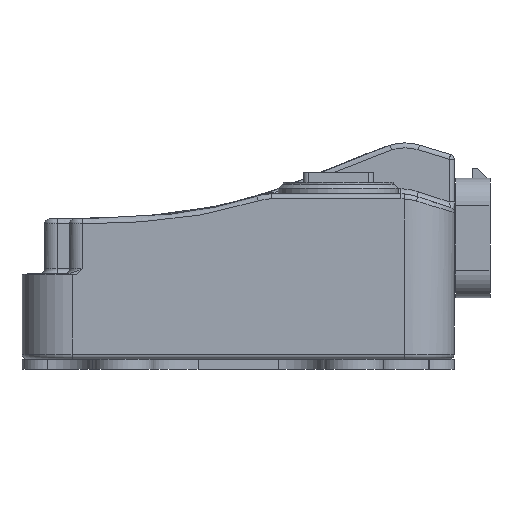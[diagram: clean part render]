
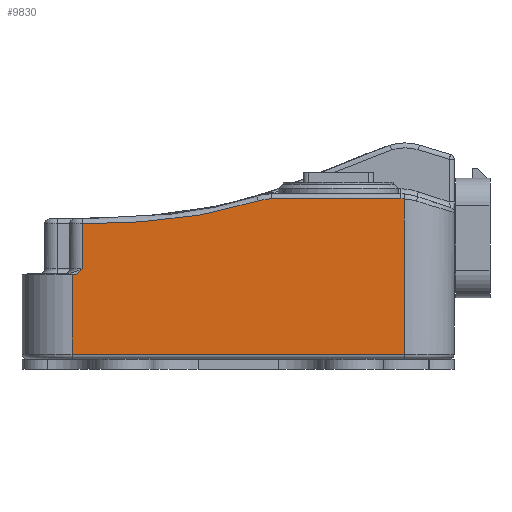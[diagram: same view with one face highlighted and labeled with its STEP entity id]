
A CAD part, left-side view. The second image highlights one B-rep face of the part: STEP entity #9830.
In plain terms, the highlighted planar face has unit normal (-1, 0, 0).
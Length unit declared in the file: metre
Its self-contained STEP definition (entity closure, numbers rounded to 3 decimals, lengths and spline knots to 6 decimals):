
#195=B_SPLINE_CURVE_WITH_KNOTS('',3,(#16682,#16683,#16684,#16685,#16686),
 .UNSPECIFIED.,.F.,.F.,(4,1,4),(0.,0.017737,0.035475),
 .UNSPECIFIED.);
#196=B_SPLINE_CURVE_WITH_KNOTS('',3,(#16690,#16691,#16692,#16693),
 .UNSPECIFIED.,.F.,.F.,(4,4),(0.001282,0.002648),
 .UNSPECIFIED.);
#197=B_SPLINE_CURVE_WITH_KNOTS('',3,(#16695,#16696,#16697,#16698),
 .UNSPECIFIED.,.F.,.F.,(4,4),(0.001132,0.001282),
 .UNSPECIFIED.);
#1001=LINE('',#16669,#1559);
#1002=LINE('',#16672,#1560);
#1003=LINE('',#16674,#1561);
#1004=LINE('',#16678,#1562);
#1005=LINE('',#16688,#1563);
#1006=LINE('',#16700,#1564);
#1559=VECTOR('',#13003,1.);
#1560=VECTOR('',#13004,1.);
#1561=VECTOR('',#13005,1.);
#1562=VECTOR('',#13008,1.);
#1563=VECTOR('',#13011,1.);
#1564=VECTOR('',#13012,1.);
#2988=ORIENTED_EDGE('',*,*,#5341,.F.);
#2989=ORIENTED_EDGE('',*,*,#5342,.T.);
#2990=ORIENTED_EDGE('',*,*,#5343,.F.);
#2991=ORIENTED_EDGE('',*,*,#5344,.T.);
#2992=ORIENTED_EDGE('',*,*,#5345,.T.);
#2993=ORIENTED_EDGE('',*,*,#5346,.T.);
#2994=ORIENTED_EDGE('',*,*,#5347,.T.);
#2995=ORIENTED_EDGE('',*,*,#5348,.F.);
#2996=ORIENTED_EDGE('',*,*,#5349,.T.);
#2997=ORIENTED_EDGE('',*,*,#5350,.T.);
#2998=ORIENTED_EDGE('',*,*,#5351,.F.);
#5341=EDGE_CURVE('',#6584,#6585,#1001,.T.);
#5342=EDGE_CURVE('',#6584,#6586,#1002,.T.);
#5343=EDGE_CURVE('',#6587,#6586,#1003,.F.);
#5344=EDGE_CURVE('',#6587,#6588,#7368,.T.);
#5345=EDGE_CURVE('',#6588,#6589,#1004,.T.);
#5346=EDGE_CURVE('',#6589,#6590,#7369,.T.);
#5347=EDGE_CURVE('',#6590,#6591,#195,.T.);
#5348=EDGE_CURVE('',#6592,#6591,#1005,.T.);
#5349=EDGE_CURVE('',#6592,#6593,#196,.F.);
#5350=EDGE_CURVE('',#6593,#6594,#197,.F.);
#5351=EDGE_CURVE('',#6585,#6594,#1006,.T.);
#6584=VERTEX_POINT('',#16670);
#6585=VERTEX_POINT('',#16671);
#6586=VERTEX_POINT('',#16673);
#6587=VERTEX_POINT('',#16675);
#6588=VERTEX_POINT('',#16677);
#6589=VERTEX_POINT('',#16679);
#6590=VERTEX_POINT('',#16681);
#6591=VERTEX_POINT('',#16687);
#6592=VERTEX_POINT('',#16689);
#6593=VERTEX_POINT('',#16694);
#6594=VERTEX_POINT('',#16699);
#7368=CIRCLE('',#10912,0.009);
#7369=CIRCLE('',#10913,0.009);
#8088=EDGE_LOOP('',(#2988,#2989,#2990,#2991,#2992,#2993,#2994,#2995,#2996,
#2997,#2998));
#8891=FACE_BOUND('',#8088,.T.);
#9486=PLANE('',#10911);
#9830=ADVANCED_FACE('',(#8891),#9486,.T.);
#10911=AXIS2_PLACEMENT_3D('',#16668,#13001,#13002);
#10912=AXIS2_PLACEMENT_3D('',#16676,#13006,#13007);
#10913=AXIS2_PLACEMENT_3D('',#16680,#13009,#13010);
#13001=DIRECTION('',(-1.,0.,0.));
#13002=DIRECTION('',(0.,1.,0.));
#13003=DIRECTION('',(0.,0.,1.));
#13004=DIRECTION('',(0.,-1.,0.));
#13005=DIRECTION('',(0.,0.,1.));
#13006=DIRECTION('',(-1.,0.,0.));
#13007=DIRECTION('',(0.,0.,1.));
#13008=DIRECTION('',(0.,1.,0.));
#13009=DIRECTION('',(-1.,0.,0.));
#13010=DIRECTION('',(0.,0.,1.));
#13011=DIRECTION('',(0.,0.,1.));
#13012=DIRECTION('',(0.,-1.,0.));
#16668=CARTESIAN_POINT('',(-0.0518,0.,0.017));
#16669=CARTESIAN_POINT('',(-0.0518,0.03315,0.018));
#16670=CARTESIAN_POINT('',(-0.0518,0.03315,-0.009));
#16671=CARTESIAN_POINT('',(-0.0518,0.03315,0.0069));
#16672=CARTESIAN_POINT('',(-0.0518,0.,-0.009));
#16673=CARTESIAN_POINT('',(-0.0518,-0.03315,-0.009));
#16674=CARTESIAN_POINT('',(-0.0518,-0.03315,0.017));
#16675=CARTESIAN_POINT('',(-0.0518,-0.03315,0.021978));
#16676=CARTESIAN_POINT('',(-0.0518,-0.032527,0.013));
#16677=CARTESIAN_POINT('',(-0.0518,-0.032527,0.022));
#16678=CARTESIAN_POINT('',(-0.0518,-0.006758,0.022));
#16679=CARTESIAN_POINT('',(-0.0518,-0.006758,0.022));
#16680=CARTESIAN_POINT('',(-0.0518,-0.006758,0.013));
#16681=CARTESIAN_POINT('',(-0.0518,-0.00403,0.021576));
#16682=CARTESIAN_POINT('',(-0.0518,-0.00403,0.021576));
#16683=CARTESIAN_POINT('',(-0.0518,0.001696,0.019755));
#16684=CARTESIAN_POINT('',(-0.0518,0.013326,0.017488));
#16685=CARTESIAN_POINT('',(-0.0518,0.025195,0.017066));
#16686=CARTESIAN_POINT('',(-0.0518,0.03115,0.017008));
#16687=CARTESIAN_POINT('',(-0.0518,0.03115,0.017008));
#16688=CARTESIAN_POINT('',(-0.0518,0.03115,0.007));
#16689=CARTESIAN_POINT('',(-0.0518,0.03115,0.008));
#16690=CARTESIAN_POINT('',(-0.0518,0.032094,0.007));
#16691=CARTESIAN_POINT('',(-0.0518,0.031754,0.007309));
#16692=CARTESIAN_POINT('',(-0.0518,0.03145,0.007657));
#16693=CARTESIAN_POINT('',(-0.0518,0.03115,0.008));
#16694=CARTESIAN_POINT('',(-0.0518,0.032094,0.007));
#16695=CARTESIAN_POINT('',(-0.0518,0.032206,0.0069));
#16696=CARTESIAN_POINT('',(-0.0518,0.032168,0.006933));
#16697=CARTESIAN_POINT('',(-0.0518,0.032131,0.006966));
#16698=CARTESIAN_POINT('',(-0.0518,0.032094,0.007));
#16699=CARTESIAN_POINT('',(-0.0518,0.032206,0.0069));
#16700=CARTESIAN_POINT('',(-0.0518,0.,0.0069));
